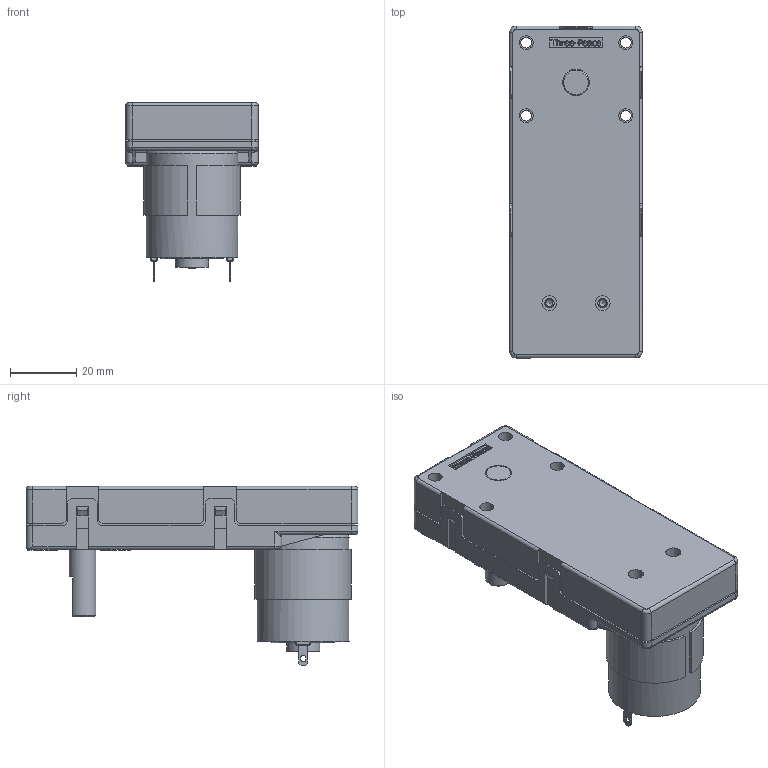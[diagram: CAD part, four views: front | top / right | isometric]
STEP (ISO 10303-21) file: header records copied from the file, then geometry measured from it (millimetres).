
FILE_DESCRIPTION(/* description */ (''),/* implementation_level */ '2;1');
FILE_NAME(/* name */ 'TP-2932#-IA.stp',/* time_stamp */ '2024-01-10T11:25:27+09:00',/* author */ ('user'),/* organization */ (''),/* preprocessor_version */ 'ST-DEVELOPER v19.2',/* originating_system */ 'Autodesk Inventor 2024',/* authorisation */ '');
FILE_SCHEMA (('AUTOMOTIVE_DESIGN { 1 0 10303 214 3 1 1 }'));
Length unit declared in the file: millimetre
Products named in the file (6): TP-2932#-IA-J00-24; IA,IB; KE0016-HP; KE0015-HP; DS0025-HP; TP-2932#(RS-365PH)
Assembly tree (5 placements, depth 3):
  TP-2932#-IA-J00-24
    IA,IB
      KE0016-HP
      KE0015-HP
      DS0025-HP
    TP-2932#(RS-365PH)
Bounding box: 40 x 100 x 54 mm (x, y, z)
Volume: 90849.7 mm3; surface area: 29373.2 mm2
Topology: 4 solids, 4 shells, 745 faces, 1952 edges, 1276 vertices
Faces by surface type: plane 422, bspline 207, cylinder 98, torus 13, cone 5
Full cylindrical faces by diameter (mm): 2 x3, 2.113 x2, 2.3 x2, 2.5 x5, 2.8 x4, 3.242 x4, 4.2 x12, 4.5 x2, 8 x3, 9 x6, 10 x3, 19 x1, 26.7 x1, 27.7 x1
Entity records: 24928 total; most frequent: CARTESIAN_POINT 7408, ORIENTED_EDGE 3896, DIRECTION 2903, EDGE_CURVE 1948, VERTEX_POINT 1276, LINE 1271, VECTOR 1271, EDGE_LOOP 854
